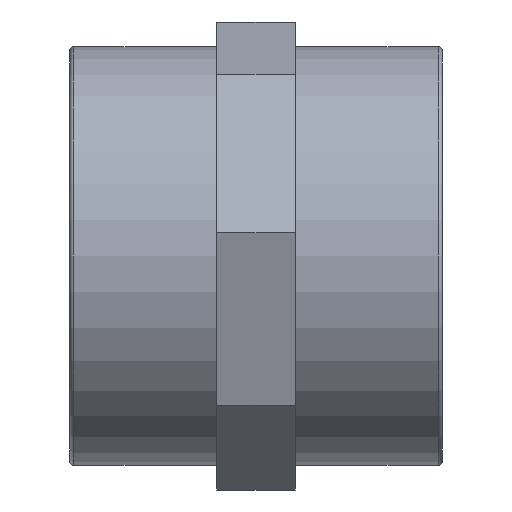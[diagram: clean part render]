
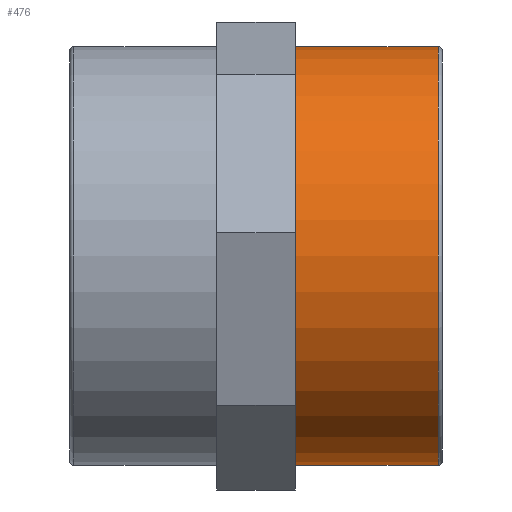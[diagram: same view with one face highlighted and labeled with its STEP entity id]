
A CAD part, front view. The second image highlights one B-rep face of the part: STEP entity #476.
In plain terms, the highlighted cylindrical face has radius 53 mm (diameter 106 mm), a full revolution.
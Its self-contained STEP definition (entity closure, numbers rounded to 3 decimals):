
#46=CYLINDRICAL_SURFACE('',#514,53.);
#55=FACE_BOUND('',#135,.T.);
#72=CIRCLE('',#513,53.);
#73=CIRCLE('',#515,53.);
#99=FACE_OUTER_BOUND('',#134,.T.);
#134=EDGE_LOOP('',(#378));
#135=EDGE_LOOP('',(#379));
#238=VERTEX_POINT('',#716);
#239=VERTEX_POINT('',#719);
#292=EDGE_CURVE('',#238,#238,#72,.T.);
#293=EDGE_CURVE('',#239,#239,#73,.T.);
#378=ORIENTED_EDGE('',*,*,#293,.F.);
#379=ORIENTED_EDGE('',*,*,#292,.T.);
#476=ADVANCED_FACE('',(#99,#55),#46,.T.);
#513=AXIS2_PLACEMENT_3D('',#717,#595,#596);
#514=AXIS2_PLACEMENT_3D('',#718,#597,#598);
#515=AXIS2_PLACEMENT_3D('',#720,#599,#600);
#595=DIRECTION('center_axis',(1.,0.,0.));
#596=DIRECTION('ref_axis',(0.,-1.,0.));
#597=DIRECTION('center_axis',(-1.,0.,0.));
#598=DIRECTION('ref_axis',(0.,-1.,0.));
#599=DIRECTION('center_axis',(1.,0.,0.));
#600=DIRECTION('ref_axis',(0.,1.,0.));
#716=CARTESIAN_POINT('',(57.15,53.,0.));
#717=CARTESIAN_POINT('Origin',(57.15,0.,0.));
#718=CARTESIAN_POINT('Origin',(47.15,0.,0.));
#719=CARTESIAN_POINT('',(93.3,-53.,0.));
#720=CARTESIAN_POINT('Origin',(93.3,0.,0.));
